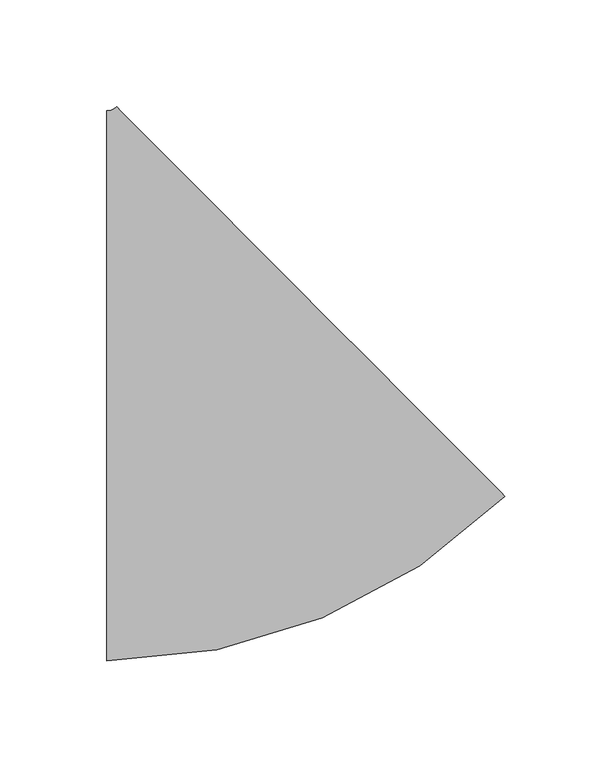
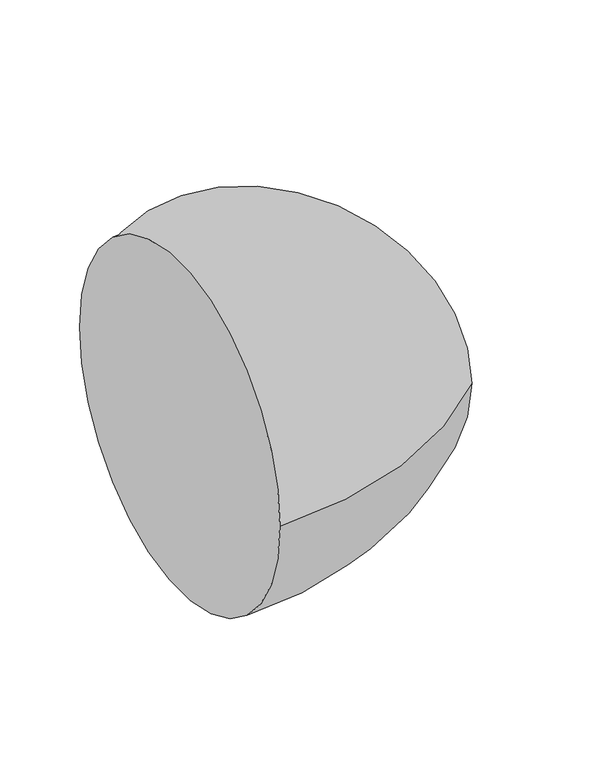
"""IFC4 building model written with IfcOpenShell, lengths in millimetres: pipe fitting geometry, M_Codo - Genérico : Estándar."""

from ifc_helpers import new_model, si_unit, point, frame, origin, place, context, project, spatial, circle_curve, ellipse_curve, trimmed, source, transform, mapped, element, save
from ifc_brep_helpers import plane_surface, revolved_surface, advanced_brep


def pipe_fitting_8179267e(model_context):
    return source(origin(), model_context, "Body", "AdvancedBrep", [
        advanced_brep(
        [(-55.7688037, -128.5875, 0.0), (-55.7688037, 128.5875, 0.0), (130.2785398, -51.6953257, 0.0), (-51.2857352, 130.4403235, 0.0)],
        [
            (0, 1, circle_curve(frame((-55.7688037, 0.0, 0.0), z_axis=(-1.0, 0.0, 0.0), x_axis=(0.0, 1.0, 0.0)), 128.5875)),
            (1, 0, circle_curve(frame((-55.7688037, 0.0, 0.0), z_axis=(-1.0, 0.0, 0.0), x_axis=(0.0, 1.0, 0.0)), 128.5875)),
            (2, 3, circle_curve(frame((39.4964023, 39.3724989, 0.0), z_axis=(0.7082167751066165, 0.7059950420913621, 0.0), x_axis=(-0.7059950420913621, 0.7082167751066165, 0.0)), 128.5875)),
            (3, 2, circle_curve(frame((39.4964023, 39.3724989, 0.0), z_axis=(0.7082167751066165, 0.7059950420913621, 0.0), x_axis=(-0.7059950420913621, 0.7082167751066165, 0.0)), 128.5875)),
            (3, 1, circle_curve(frame((-55.7688037, 134.9375, 0.0), z_axis=(0.0, 0.0, -1.0), x_axis=(0.0, -1.0, 0.0)), 6.35)),
            (0, 2, circle_curve(frame((-55.7688037, 134.9375, 0.0), z_axis=(0.0, 0.0, 1.0), x_axis=(0.0, -1.0, 0.0)), 263.525)),
        ],
        [
            plane_surface(frame((-55.7688037, 0.0, 0.0), z_axis=(-1.0, 0.0, 0.0), x_axis=(0.0, 0.0, 1.0))),
            plane_surface(frame((39.4964023, 39.3724989, 0.0), z_axis=(0.7082167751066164, 0.7059950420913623, 0.0), x_axis=(0.0, 0.0, 1.0))),
            revolved_surface(trimmed(ellipse_curve(frame((-55.7688037, 0.0, 0.0), z_axis=(-1.0, 0.0, 0.0), x_axis=(0.0, 1.0, 0.0)), 128.5875, 128.5875), [point((-55.7688037, -128.5875, 0.0))], [point((-55.7688037, 128.5875, 0.0))], True, "CARTESIAN"), (-55.7688037, 134.9375, 0.0), (0.0, 0.0, 1.0)),
            revolved_surface(trimmed(ellipse_curve(frame((-55.7688037, 0.0, 0.0), z_axis=(-1.0, 0.0, 0.0), x_axis=(0.0, 1.0, 0.0)), 128.5875, 128.5875), [point((-55.7688037, 128.5875, 0.0))], [point((-55.7688037, -128.5875, 0.0))], True, "CARTESIAN"), (-55.7688037, 134.9375, 0.0), (0.0, 0.0, 1.0)),
        ],
        [
            (0, [[1, 2]]),
            (1, [[3, 4]]),
            (2, [[5, -1, 6, -4]]),
            (3, [[-6, -2, -5, -3]]),
        ],
    ),
    ])


if __name__ == "__main__":
    model = new_model("IFC4")
    model_context = context("Model", 3, world=origin())
    ifc_project = project(units=[si_unit("LENGTHUNIT", "METRE", prefix="MILLI")], contexts=[model_context])
    site = spatial("IfcSite", under=ifc_project)
    building = spatial("IfcBuilding", under=site)
    placement = place(None, origin())
    pipe_fitting_shape = pipe_fitting_8179267e(model_context)
    element("IfcPipeFitting", 1, ObjectType="M_Codo - Genérico : Estándar", at=placement, inside=building, context=model_context, shape_type="MappedRepresentation", body=[
        mapped(pipe_fitting_shape, transform((0.0, 0.0, 0.0), x_axis=(1.0, 0.0, 0.0), y_axis=(0.0, 1.0, 0.0), z_axis=(0.0, 0.0, 1.0))),
    ])
    save(model, "model.ifc")
